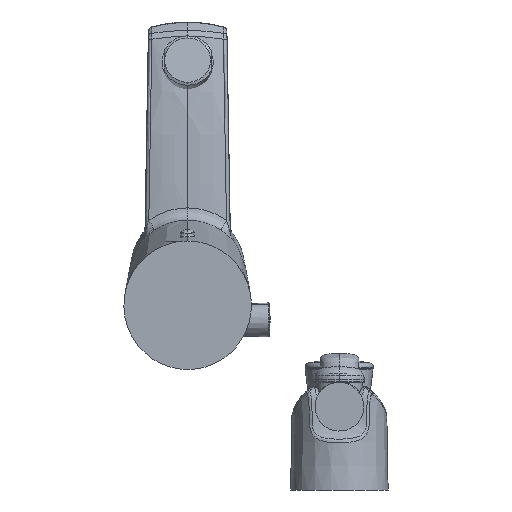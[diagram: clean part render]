
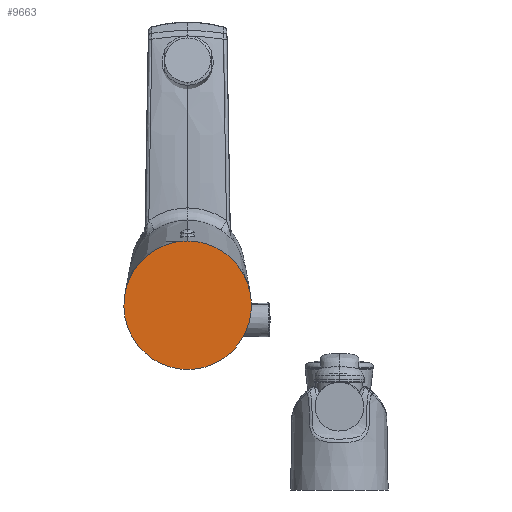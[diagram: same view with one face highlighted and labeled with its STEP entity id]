
A CAD part, front view. The second image highlights one B-rep face of the part: STEP entity #9663.
In plain terms, the highlighted planar face has unit normal (0, -1, 0).
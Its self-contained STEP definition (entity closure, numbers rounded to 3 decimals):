
#135 = CARTESIAN_POINT ( 'NONE',  ( 0., 0.557, 29.006 ) ) ;
#303 = PLANE ( 'NONE',  #15054 ) ;
#343 = CARTESIAN_POINT ( 'NONE',  ( 59.996, 0.557, -31.441 ) ) ;
#1493 = DIRECTION ( 'NONE',  ( 0., 0., 1. ) ) ;
#2078 = EDGE_CURVE ( 'NONE', #9970, #12871, #13624, .T. ) ;
#2254 = CARTESIAN_POINT ( 'NONE',  ( -59.996, 0.557, 29.006 ) ) ;
#4321 = CARTESIAN_POINT ( 'NONE',  ( 0., 0.557, -31.441 ) ) ;
#5831 = EDGE_CURVE ( 'NONE', #12871, #9970, #11443, .T. ) ;
#5923 = EDGE_LOOP ( 'NONE', ( #10009, #8458 ) ) ;
#6235 = CARTESIAN_POINT ( 'NONE',  ( 0., 0.557, 29.006 ) ) ;
#7198 = CARTESIAN_POINT ( 'NONE',  ( 0., 0.557, -31.441 ) ) ;
#7367 = CARTESIAN_POINT ( 'NONE',  ( -253.055, 0.557, -54.334 ) ) ;
#8458 = ORIENTED_EDGE ( 'NONE', *, *, #5831, .F. ) ;
#8556 = DIRECTION ( 'NONE',  ( 0., 1., 0. ) ) ;
#8606 = CARTESIAN_POINT ( 'NONE',  ( 0., 0.557, -31.441 ) ) ;
#9663 = ADVANCED_FACE ( 'NONE', ( #11854 ), #303, .F. ) ;
#9970 = VERTEX_POINT ( 'NONE', #4321 ) ;
#10009 = ORIENTED_EDGE ( 'NONE', *, *, #2078, .F. ) ;
#10736 = CARTESIAN_POINT ( 'NONE',  ( -59.996, 0.557, -31.441 ) ) ;
#11443 =( BOUNDED_CURVE ( )  B_SPLINE_CURVE ( 3, ( #6235, #13318, #343, #8606 ),
 .UNSPECIFIED., .F., .T. ) 
 B_SPLINE_CURVE_WITH_KNOTS ( ( 4, 4 ),
 ( 3.142, 6.283 ),
 .UNSPECIFIED. ) 
 CURVE ( )  GEOMETRIC_REPRESENTATION_ITEM ( )  RATIONAL_B_SPLINE_CURVE ( ( 1., 0.333, 0.333, 1. ) ) 
 REPRESENTATION_ITEM ( '' )  );
#11771 = CARTESIAN_POINT ( 'NONE',  ( 0., 0.557, 29.006 ) ) ;
#11854 = FACE_OUTER_BOUND ( 'NONE', #5923, .T. ) ;
#12871 = VERTEX_POINT ( 'NONE', #11771 ) ;
#13318 = CARTESIAN_POINT ( 'NONE',  ( 59.996, 0.557, 29.006 ) ) ;
#13624 =( BOUNDED_CURVE ( )  B_SPLINE_CURVE ( 3, ( #7198, #10736, #2254, #135 ),
 .UNSPECIFIED., .F., .T. ) 
 B_SPLINE_CURVE_WITH_KNOTS ( ( 4, 4 ),
 ( 0., 3.142 ),
 .UNSPECIFIED. ) 
 CURVE ( )  GEOMETRIC_REPRESENTATION_ITEM ( )  RATIONAL_B_SPLINE_CURVE ( ( 1., 0.333, 0.333, 1. ) ) 
 REPRESENTATION_ITEM ( '' )  );
#15054 = AXIS2_PLACEMENT_3D ( 'NONE', #7367, #8556, #1493 ) ;
